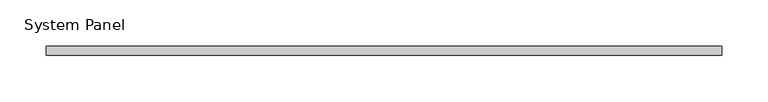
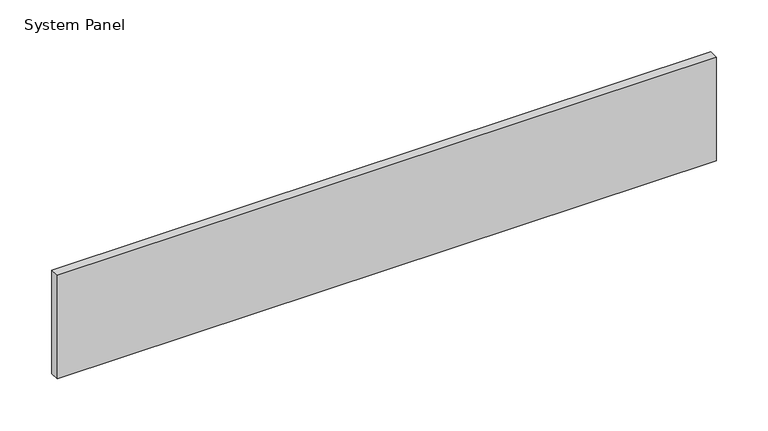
"""IFC4 building model written with IfcOpenShell, lengths in millimetres: plate geometry, System Panel : VACÍO."""

from ifc_helpers import new_model, si_unit, origin, origin_with_axes, place, context, project, spatial, polyline, outline, extrude, source, transform, mapped, element, save


def system_panel_3c67efe2(model_context):
    return source(origin(), model_context, "Body", "SweptSolid", [
        extrude(outline(polyline([(365.7649215, -5.0), (-365.7649215, -5.0), (-365.7649215, 5.0), (365.7649215, 5.0), (365.7649215, -5.0)])), origin_with_axes(), (0.0, 0.0, 1.0), 121.5),
    ])


if __name__ == "__main__":
    model = new_model("IFC4")
    model_context = context("Model", 3, world=origin())
    ifc_project = project(units=[si_unit("LENGTHUNIT", "METRE", prefix="MILLI")], contexts=[model_context])
    site = spatial("IfcSite", under=ifc_project)
    building = spatial("IfcBuilding", under=site)
    placement = place(None, origin())
    system_panel_shape = system_panel_3c67efe2(model_context)
    element("IfcPlate", 1, ObjectType="System Panel : VACÍO", at=placement, inside=building, context=model_context, shape_type="MappedRepresentation", body=[
        mapped(system_panel_shape, transform((0.0, 0.0, 0.0), x_axis=(1.0, 0.0, 0.0), y_axis=(0.0, 1.0, 0.0), z_axis=(0.0, 0.0, 1.0))),
    ])
    save(model, "model.ifc")
